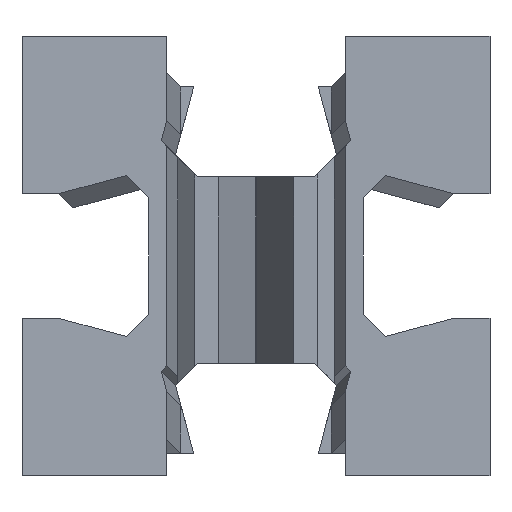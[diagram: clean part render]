
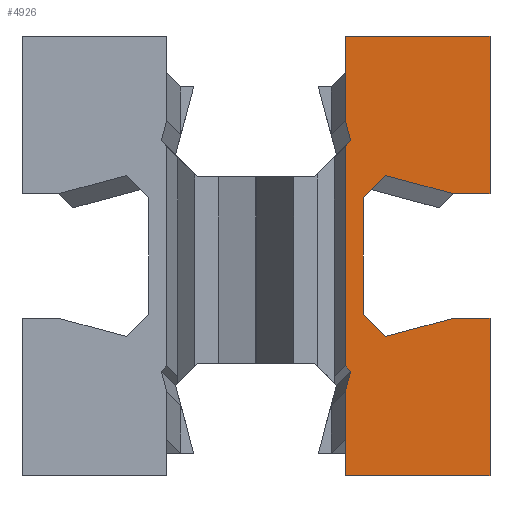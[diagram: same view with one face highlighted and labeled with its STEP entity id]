
A CAD part, front view. The second image highlights one B-rep face of the part: STEP entity #4926.
In plain terms, the highlighted planar face has unit normal (0, -1, 0).
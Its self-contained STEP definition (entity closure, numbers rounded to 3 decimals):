
#164=FACE_OUTER_BOUND('',#428,.T.);
#428=EDGE_LOOP('',(#3913,#3914,#3915,#3916,#3917,#3918,#3919,#3920,#3921,
#3922,#3923,#3924,#3925,#3926,#3927,#3928,#3929,#3930));
#920=LINE('',#7290,#1624);
#924=LINE('',#7298,#1628);
#929=LINE('',#7308,#1633);
#932=LINE('',#7314,#1636);
#937=LINE('',#7325,#1641);
#944=LINE('',#7338,#1648);
#947=LINE('',#7346,#1651);
#951=LINE('',#7355,#1655);
#954=LINE('',#7359,#1658);
#956=LINE('',#7364,#1660);
#960=LINE('',#7373,#1664);
#963=LINE('',#7379,#1667);
#966=LINE('',#7383,#1670);
#968=LINE('',#7388,#1672);
#971=LINE('',#7394,#1675);
#974=LINE('',#7398,#1678);
#975=LINE('',#7400,#1679);
#976=LINE('',#7401,#1680);
#1624=VECTOR('',#5932,10.);
#1628=VECTOR('',#5938,10.);
#1633=VECTOR('',#5945,10.);
#1636=VECTOR('',#5950,10.);
#1641=VECTOR('',#5959,10.);
#1648=VECTOR('',#5970,10.);
#1651=VECTOR('',#5975,10.);
#1655=VECTOR('',#5981,10.);
#1658=VECTOR('',#5986,10.);
#1660=VECTOR('',#5990,10.);
#1664=VECTOR('',#5996,10.);
#1667=VECTOR('',#6001,10.);
#1670=VECTOR('',#6006,10.);
#1672=VECTOR('',#6010,10.);
#1675=VECTOR('',#6015,10.);
#1678=VECTOR('',#6020,10.);
#1679=VECTOR('',#6023,10.);
#1680=VECTOR('',#6024,10.);
#2210=VERTEX_POINT('',#7287);
#2211=VERTEX_POINT('',#7289);
#2214=VERTEX_POINT('',#7297);
#2216=VERTEX_POINT('',#7302);
#2218=VERTEX_POINT('',#7306);
#2220=VERTEX_POINT('',#7312);
#2224=VERTEX_POINT('',#7324);
#2228=VERTEX_POINT('',#7336);
#2231=VERTEX_POINT('',#7343);
#2232=VERTEX_POINT('',#7345);
#2235=VERTEX_POINT('',#7352);
#2236=VERTEX_POINT('',#7354);
#2238=VERTEX_POINT('',#7363);
#2241=VERTEX_POINT('',#7370);
#2242=VERTEX_POINT('',#7372);
#2244=VERTEX_POINT('',#7378);
#2246=VERTEX_POINT('',#7387);
#2248=VERTEX_POINT('',#7393);
#2780=EDGE_CURVE('',#2210,#2211,#920,.T.);
#2784=EDGE_CURVE('',#2211,#2214,#924,.T.);
#2789=EDGE_CURVE('',#2216,#2218,#929,.T.);
#2792=EDGE_CURVE('',#2220,#2218,#932,.T.);
#2797=EDGE_CURVE('',#2224,#2214,#937,.T.);
#2804=EDGE_CURVE('',#2228,#2220,#944,.T.);
#2807=EDGE_CURVE('',#2232,#2231,#947,.T.);
#2811=EDGE_CURVE('',#2236,#2235,#951,.T.);
#2814=EDGE_CURVE('',#2236,#2228,#954,.T.);
#2816=EDGE_CURVE('',#2238,#2216,#956,.T.);
#2820=EDGE_CURVE('',#2242,#2241,#960,.T.);
#2823=EDGE_CURVE('',#2244,#2242,#963,.T.);
#2826=EDGE_CURVE('',#2210,#2244,#966,.T.);
#2828=EDGE_CURVE('',#2246,#2224,#968,.T.);
#2831=EDGE_CURVE('',#2248,#2246,#971,.T.);
#2834=EDGE_CURVE('',#2231,#2248,#974,.T.);
#2835=EDGE_CURVE('',#2241,#2238,#975,.T.);
#2836=EDGE_CURVE('',#2235,#2232,#976,.T.);
#3913=ORIENTED_EDGE('',*,*,#2834,.T.);
#3914=ORIENTED_EDGE('',*,*,#2831,.T.);
#3915=ORIENTED_EDGE('',*,*,#2828,.T.);
#3916=ORIENTED_EDGE('',*,*,#2797,.T.);
#3917=ORIENTED_EDGE('',*,*,#2784,.F.);
#3918=ORIENTED_EDGE('',*,*,#2780,.F.);
#3919=ORIENTED_EDGE('',*,*,#2826,.T.);
#3920=ORIENTED_EDGE('',*,*,#2823,.T.);
#3921=ORIENTED_EDGE('',*,*,#2820,.T.);
#3922=ORIENTED_EDGE('',*,*,#2835,.T.);
#3923=ORIENTED_EDGE('',*,*,#2816,.T.);
#3924=ORIENTED_EDGE('',*,*,#2789,.T.);
#3925=ORIENTED_EDGE('',*,*,#2792,.F.);
#3926=ORIENTED_EDGE('',*,*,#2804,.F.);
#3927=ORIENTED_EDGE('',*,*,#2814,.F.);
#3928=ORIENTED_EDGE('',*,*,#2811,.T.);
#3929=ORIENTED_EDGE('',*,*,#2836,.T.);
#3930=ORIENTED_EDGE('',*,*,#2807,.T.);
#4664=PLANE('',#5192);
#4926=ADVANCED_FACE('',(#164),#4664,.T.);
#5192=AXIS2_PLACEMENT_3D('',#7399,#6021,#6022);
#5932=DIRECTION('',(1.,0.,0.));
#5938=DIRECTION('',(0.,0.,-1.));
#5945=DIRECTION('',(1.,0.,0.));
#5950=DIRECTION('',(0.,0.,-1.));
#5959=DIRECTION('',(1.,0.,0.));
#5970=DIRECTION('',(1.,0.,0.));
#5975=DIRECTION('',(0.,0.,-1.));
#5981=DIRECTION('',(0.259,0.,-0.966));
#5986=DIRECTION('',(0.,0.,1.));
#5990=DIRECTION('',(0.966,0.,-0.259));
#5996=DIRECTION('',(0.,0.,1.));
#6001=DIRECTION('',(-0.707,0.,0.707));
#6006=DIRECTION('',(-0.966,0.,-0.259));
#6010=DIRECTION('',(0.,0.,-1.));
#6015=DIRECTION('',(-0.259,0.,-0.966));
#6020=DIRECTION('',(0.707,0.,-0.707));
#6021=DIRECTION('center_axis',(0.,-1.,0.));
#6022=DIRECTION('ref_axis',(0.,0.,-1.));
#6023=DIRECTION('',(0.707,0.,0.707));
#6024=DIRECTION('',(-0.707,0.,-0.707));
#7287=CARTESIAN_POINT('',(5.386,-2.306,3.686));
#7289=CARTESIAN_POINT('',(6.386,-2.306,3.686));
#7290=CARTESIAN_POINT('',(5.386,-2.306,3.686));
#7297=CARTESIAN_POINT('',(6.386,-2.306,-0.614));
#7298=CARTESIAN_POINT('',(6.386,-2.306,0.386));
#7302=CARTESIAN_POINT('',(5.386,-2.306,7.086));
#7306=CARTESIAN_POINT('',(6.386,-2.306,7.086));
#7308=CARTESIAN_POINT('',(5.386,-2.306,7.086));
#7312=CARTESIAN_POINT('',(6.386,-2.306,11.386));
#7314=CARTESIAN_POINT('',(6.386,-2.306,7.886));
#7324=CARTESIAN_POINT('',(2.436,-2.306,-0.614));
#7325=CARTESIAN_POINT('',(5.386,-2.306,-0.614));
#7336=CARTESIAN_POINT('',(2.436,-2.306,11.386));
#7338=CARTESIAN_POINT('',(2.086,-2.306,11.386));
#7343=CARTESIAN_POINT('',(2.436,-2.306,2.387));
#7345=CARTESIAN_POINT('',(2.436,-2.306,8.384));
#7346=CARTESIAN_POINT('',(2.436,-2.306,0.386));
#7352=CARTESIAN_POINT('',(2.583,-2.306,8.531));
#7354=CARTESIAN_POINT('',(2.436,-2.306,9.08));
#7355=CARTESIAN_POINT('',(3.596,-2.306,4.75));
#7359=CARTESIAN_POINT('',(2.436,-2.306,10.386));
#7363=CARTESIAN_POINT('',(3.531,-2.306,7.583));
#7364=CARTESIAN_POINT('',(4.847,-2.306,7.23));
#7370=CARTESIAN_POINT('',(2.93,-2.306,6.982));
#7372=CARTESIAN_POINT('',(2.93,-2.306,3.79));
#7373=CARTESIAN_POINT('',(2.93,-2.306,3.684));
#7378=CARTESIAN_POINT('',(3.531,-2.306,3.189));
#7379=CARTESIAN_POINT('',(3.658,-2.306,3.062));
#7383=CARTESIAN_POINT('',(2.67,-2.306,2.958));
#7387=CARTESIAN_POINT('',(2.436,-2.306,1.692));
#7388=CARTESIAN_POINT('',(2.436,-2.306,0.386));
#7393=CARTESIAN_POINT('',(2.583,-2.306,2.24));
#7394=CARTESIAN_POINT('',(2.097,-2.306,0.429));
#7398=CARTESIAN_POINT('',(3.01,-2.306,1.813));
#7399=CARTESIAN_POINT('Origin',(2.436,-2.306,0.386));
#7400=CARTESIAN_POINT('',(1.458,-2.306,5.51));
#7401=CARTESIAN_POINT('',(0.209,-2.306,6.158));
